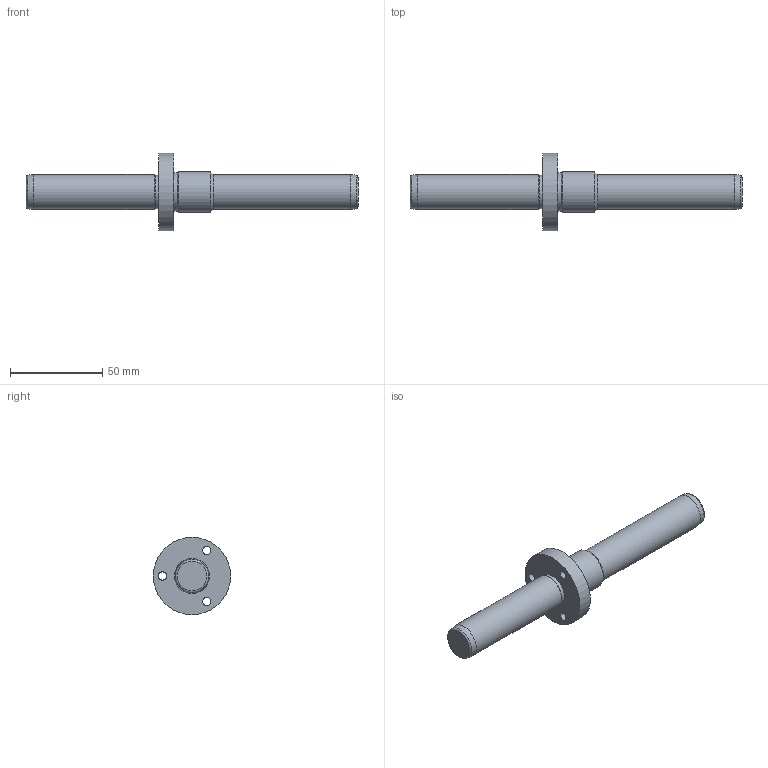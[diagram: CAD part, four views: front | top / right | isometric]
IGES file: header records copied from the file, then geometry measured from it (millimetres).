
Global section: file name: CEAS1980100.ipt; native system: Autodesk Inventor 2021; preprocessor: unknown; author: SM; date: 20211206.123620; units: millimetre
Bounding box: 180 x 42 x 42 mm (x, y, z)
Volume: 60707.3 mm3; surface area: 14592.5 mm2
Topology: 1 solids, 1 shells, 26 faces, 60 edges, 41 vertices
Faces by surface type: revolution 8, plane 7, cylinder 6, cone 5
Full cylindrical faces by diameter (mm): 18 x1, 19 x2, 21 x1, 22 x1, 42 x1
